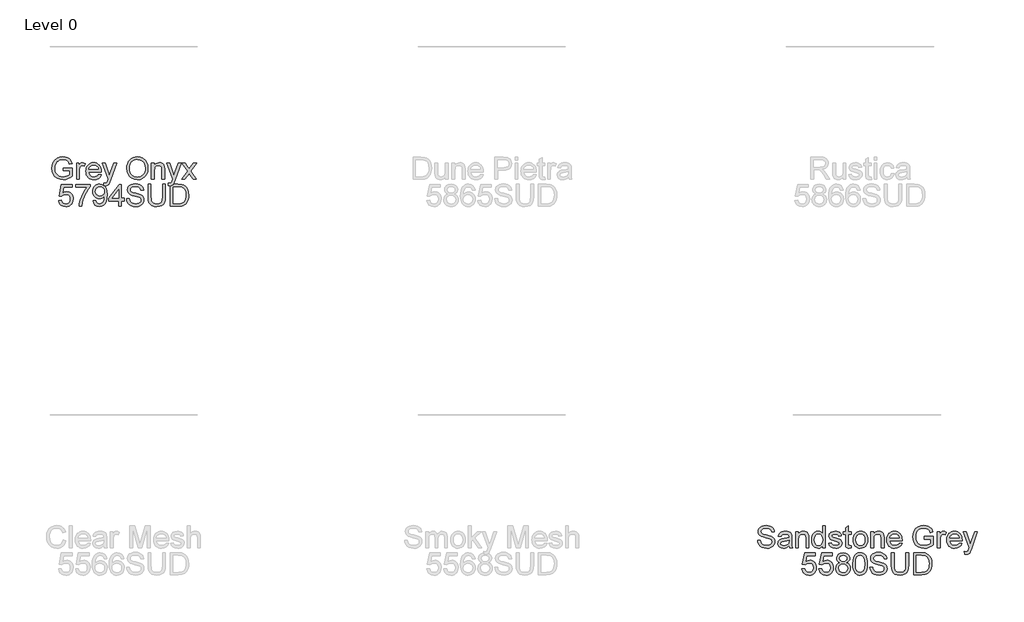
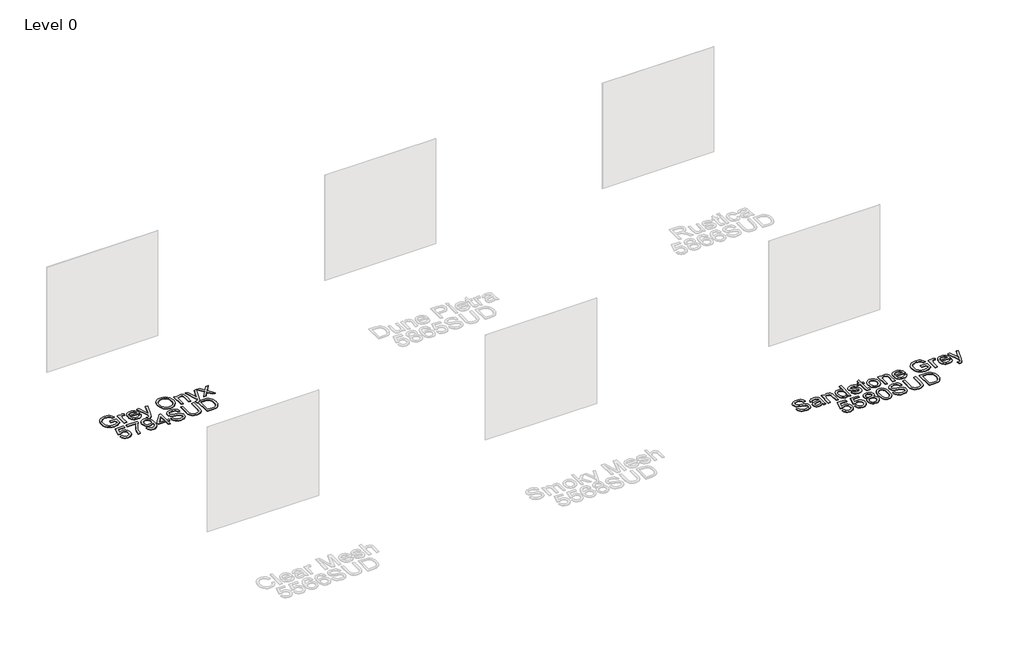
# One storey, part 20 of 29: 2 proxies.
"""IFC4 building model written with IfcOpenShell, lengths in millimetres."""

from ifc_helpers import new_model, si_unit, origin, origin_with_axes, place, context, project, spatial, polyline, outline, extrude, element, save

model = new_model("IFC4")

# Units and contexts
model_context = context("Model", 3, world=origin())
ifc_project = project(units=[si_unit("LENGTHUNIT", "METRE", prefix="MILLI")], contexts=[model_context])

# Site, building, storey
site = spatial("IfcSite", under=ifc_project)
building = spatial("IfcBuilding", under=site)
storey = spatial("IfcBuildingStorey", under=building, Name="Level 0", Elevation=0.0)

# Proxies
placement = place(None, origin())
element("IfcBuildingElementProxy", 1, Name="300mm Arial", ObjectType="300mm Arial", at=placement, inside=storey, context=model_context, shape_type="SweptSolid", body=[
    extrude(outline(polyline([(-270.004836, -6885.1382555), (-270.004836, -6847.4671392), (-147.573708, -6847.4671392), (-147.573708, -6960.1126061), (-177.3261643, -6980.8059684), (-208.0167198, -6995.6500069), (-239.5717979, -7004.5895394), (-271.9178223, -7007.5693835), (-314.1782665, -7002.8329028), (-352.3736147, -6988.6234608), (-384.1034368, -6965.437698), (-406.9673028, -6933.7722553), (-420.7904687, -6895.7884393), (-425.3981907, -6853.6475567), (-420.8088628, -6811.2031715), (-407.0408792, -6771.7202364), (-384.6644568, -6738.6016598), (-354.2498129, -6715.2503502), (-317.2040959, -6701.399593), (-274.9344547, -6696.782674), (-243.9036084, -6699.4590155), (-215.9997591, -6707.4880401), (-192.5012966, -6720.2903335), (-174.686611, -6737.2864817), (-161.5072385, -6759.295022), (-151.9147155, -6787.134492), (-186.6427759, -6796.9201531), (-194.3958889, -6777.0637224), (-203.822865, -6762.0817281), (-216.2940647, -6750.7877509), (-233.1798482, -6741.9953712), (-253.3121904, -6736.3391855), (-275.5230659, -6734.4537903), (-301.5231259, -6736.4863383), (-323.7523955, -6742.5839824), (-342.1281011, -6751.9833674), (-356.5674694, -6763.9211381), (-375.9548506, -6792.9470275), (-384.7840185, -6821.3843058), (-387.7270744, -6852.1024524), (-384.1862102, -6888.1272967), (-373.5636176, -6917.7693885), (-356.1811933, -6940.8171955), (-332.3608341, -6957.0591856), (-304.484576, -6966.6884968), (-274.9344547, -6969.8982672), (-248.8424242, -6967.4794431), (-223.3941872, -6960.2229707), (-201.2936763, -6950.2257775), (-185.2448243, -6939.5847908), (-185.2448243, -6885.1382555), (-270.004836, -6885.1382555)])), origin_with_axes(), (0.0, 0.0, 1.0), 10.0),
    extrude(outline(polyline([(-91.0670335, -7002.860494), (-91.0670335, -6781.5426857), (-58.1048067, -6781.5426857), (-58.1048067, -6814.2841833), (-45.9279127, -6795.3014723), (-34.7075119, -6784.1178596), (-23.4503228, -6778.654812), (-11.1630642, -6776.8337961), (7.5989176, -6779.7400639), (26.6552049, -6788.4588672), (14.0736407, -6822.2304343), (0.8298889, -6816.4362929), (-12.4138629, -6814.5049125), (-23.6618549, -6816.3627165), (-33.7142305, -6821.9361288), (-41.8352255, -6830.8020848), (-47.2890761, -6842.5375205), (-51.8692069, -6863.5803706), (-53.3959172, -6886.5362071), (-53.3959172, -7002.860494), (-91.0670335, -7002.860494)])), origin_with_axes(), (0.0, 0.0, 1.0), 10.0),
    extrude(outline(polyline([(205.151549, -6936.9360404), (242.0869013, -6941.64493), (228.7787701, -6969.4752029), (207.542782, -6990.2789297), (178.8571834, -7003.2467701), (143.200221, -7007.5693835), (119.8259187, -7005.7046817), (98.9991993, -7000.1105761), (80.7200627, -6990.7870668), (64.9885088, -6977.7341537), (52.3379667, -6961.3151204), (43.3018652, -6941.8932503), (37.8802043, -6919.4685435), (36.072984, -6894.0409998), (37.8985984, -6867.7512327), (43.3754416, -6844.5792656), (52.5035136, -6824.5250983), (65.2828144, -6807.5887309), (80.9729815, -6794.133447), (98.8336524, -6784.5225298), (118.864827, -6778.7559796), (141.0665054, -6776.8337961), (162.5531132, -6778.751381), (181.9841804, -6784.5041357), (199.3597068, -6794.0920602), (214.6796927, -6807.5151545), (227.1853813, -6824.4147337), (236.1180159, -6844.4321128), (241.4775968, -6867.5672917), (243.2641237, -6893.8202706), (243.0433945, -6903.9738137), (73.7441003, -6903.9738137), (80.2648087, -6932.1719686), (95.4123498, -6952.902119), (117.2737374, -6965.6492302), (143.935985, -6969.8982672), (163.9855537, -6967.9300985), (180.8713373, -6962.0255925), (194.5933357, -6951.8168672), (205.151549, -6936.9360404)]), holes=[polyline([(73.7441003, -6866.3026974), (205.5930074, -6866.3026974), (200.4978418, -6846.4002814), (190.5098456, -6832.1632482), (168.5472905, -6818.9194964), (140.9193526, -6814.5049125), (115.5262979, -6818.0273826), (94.5294331, -6828.5947929), (79.9337149, -6845.0667092), (73.7441003, -6866.3026974)])]), origin_with_axes(), (0.0, 0.0, 1.0), 10.0),
    extrude(outline(polyline([(280.93524, -7087.6205057), (276.2263505, -7051.3473409), (295.3562142, -7054.6582789), (313.2352792, -7050.5012124), (324.1981626, -7038.9129295), (334.4988585, -7011.1746271), (337.4419145, -7002.0511536), (257.3907923, -6781.5426857), (297.1220478, -6781.5426857), (339.57563, -6904.4152721), (354.3644862, -6953.5643066), (369.1533425, -6910.1542312), (412.7841471, -6781.5426857), (452.221097, -6781.5426857), (375.1866072, -7008.1579947), (355.1738266, -7057.3070293), (344.9283131, -7072.9971964), (333.3216361, -7083.8681093), (319.838761, -7090.2140737), (303.9646529, -7092.3293952), (280.93524, -7087.6205057)])), origin_with_axes(), (0.0, 0.0, 1.0), 10.0),
    extrude(outline(polyline([(591.7219495, -6856.1491543), (594.2327442, -6820.8002931), (601.765128, -6789.5073309), (614.3191011, -6762.2702677), (631.8946634, -6739.0891034), (653.4387528, -6720.5800406), (677.8983069, -6707.3592814), (705.2733259, -6699.4268258), (735.5638097, -6696.782674), (775.09273, -6701.7490809), (810.5381603, -6716.6483017), (839.9687199, -6740.4318727), (861.4530284, -6772.0513302), (874.5864156, -6809.9799639), (878.9642114, -6852.6910636), (874.3564894, -6895.9723803), (860.5333234, -6934.4344429), (838.2580686, -6966.1090827), (808.2940801, -6989.028131), (773.1521525, -7002.9340704), (735.3430805, -7007.5693835), (695.2071548, -7002.4466267), (659.5593894, -6987.0783564), (630.2024062, -6962.853327), (608.9388269, -6931.1602931), (596.0261689, -6894.6939903), (591.7219495, -6856.1491543)]), holes=[polyline([(629.3930658, -6856.5170363), (631.2761618, -6881.4916252), (636.9254497, -6903.661114), (646.3409295, -6923.0255025), (659.5226012, -6939.5847908), (675.5461614, -6952.8469367), (693.4873065, -6962.3198981), (713.3460364, -6968.0036749), (735.1223513, -6969.8982672), (757.2711466, -6967.9852808), (777.3644014, -6962.2463217), (795.4021154, -6952.6813898), (811.3842889, -6939.2904852), (824.4693916, -6922.381709), (833.8158935, -6902.2631624), (839.4237947, -6878.9348454), (841.2930951, -6852.396758), (838.0925217, -6819.0482551), (828.4908016, -6790.2247008), (812.7362552, -6766.6526619), (791.0772027, -6749.0587055), (764.948384, -6738.1050191), (735.7845388, -6734.4537903), (714.7646813, -6736.2127261), (695.2623371, -6741.4895335), (677.277506, -6750.2842124), (660.8101882, -6762.5967629), (647.0651972, -6779.0203948), (637.2473464, -6800.1483176), (631.356636, -6825.9805314), (629.3930658, -6856.5170363)])]), origin_with_axes(), (0.0, 0.0, 1.0), 10.0),
    extrude(outline(polyline([(926.0531068, -7002.860494), (926.0531068, -6781.5426857), (963.7242231, -6781.5426857), (963.7242231, -6812.4447733), (976.811625, -6796.8649708), (992.5293833, -6785.7365404), (1010.8774978, -6779.0594822), (1031.8559686, -6776.8337961), (1050.4248123, -6778.6272209), (1067.4301575, -6784.0074951), (1081.6120084, -6792.303234), (1091.7103692, -6802.8430532), (1103.0043464, -6830.5445674), (1104.9909092, -6866.964885), (1104.9909092, -7002.860494), (1067.3197929, -7002.860494), (1067.3197929, -6872.0416565), (1062.9787854, -6838.7115477), (1056.9731118, -6828.7879309), (1047.6381062, -6821.0900002), (1035.6727443, -6816.1511844), (1021.7760019, -6814.5049125), (999.7122792, -6818.2021265), (980.9043122, -6829.2937687), (973.3880232, -6838.3482643), (968.0192454, -6850.7228949), (963.7242231, -6885.4325611), (963.7242231, -7002.860494), (926.0531068, -7002.860494)])), origin_with_axes(), (0.0, 0.0, 1.0), 10.0),
    extrude(outline(polyline([(1156.7886941, -7087.6205057), (1152.0798046, -7051.3473409), (1171.2096683, -7054.6582789), (1189.0887333, -7050.5012124), (1200.0516168, -7038.9129295), (1210.3523126, -7011.1746271), (1213.2953686, -7002.0511536), (1133.2442464, -6781.5426857), (1172.9755019, -6781.5426857), (1215.4290842, -6904.4152721), (1230.2179404, -6953.5643066), (1245.0067966, -6910.1542312), (1288.6376012, -6781.5426857), (1328.0745511, -6781.5426857), (1251.0400613, -7008.1579947), (1231.0272808, -7057.3070293), (1220.7817672, -7072.9971964), (1209.1750902, -7083.8681093), (1195.6922151, -7090.2140737), (1179.818107, -7092.3293952), (1156.7886941, -7087.6205057)])), origin_with_axes(), (0.0, 0.0, 1.0), 10.0),
    extrude(outline(polyline([(1335.7264966, -7002.860494), (1416.2190771, -6891.6129786), (1340.4353861, -6781.5426857), (1385.7584479, -6781.5426857), (1422.3259182, -6834.517693), (1439.3956428, -6859.5336687), (1454.184499, -6839.0794297), (1495.8287409, -6781.5426857), (1541.1518027, -6781.5426857), (1461.5421389, -6891.6129786), (1538.2087467, -7002.860494), (1492.8856849, -7002.860494), (1446.7532827, -6935.9795473), (1438.2919968, -6923.765865), (1381.0495584, -7002.860494), (1335.7264966, -7002.860494)])), origin_with_axes(), (0.0, 0.0, 1.0), 10.0),
    extrude(outline(polyline([(-333.5748447, -7288.7338254), (-295.9037284, -7284.0249358), (-288.9875469, -7306.6404815), (-276.9210175, -7322.8364863), (-259.7593224, -7332.5761621), (-237.557644, -7335.8227207), (-210.5551055, -7331.3069693), (-190.3215958, -7317.7597148), (-177.6848493, -7296.7444558), (-173.4726004, -7269.8246908), (-177.4181348, -7244.4776213), (-189.254738, -7225.0902402), (-209.0743805, -7212.7845875), (-236.9690328, -7208.6827032), (-255.2435709, -7210.3197781), (-270.0416242, -7215.2310027), (-291.1948389, -7232.2271509), (-328.8659552, -7227.5182614), (-295.9037284, -7072.1249066), (-149.9281527, -7072.1249066), (-149.9281527, -7109.7960229), (-265.4430992, -7109.7960229), (-281.5563306, -7192.790201), (-254.6457627, -7176.4562404), (-226.4476077, -7171.0115869), (-208.1017925, -7172.6992456), (-191.2504978, -7177.7622215), (-175.8937238, -7186.2005148), (-162.0314704, -7198.0141254), (-150.5558514, -7212.4810848), (-142.3589807, -7228.8794248), (-137.4408583, -7247.2091452), (-135.8014841, -7267.470246), (-141.7059901, -7305.1413624), (-149.0866227, -7321.9351754), (-159.4195082, -7337.3678251), (-175.0728871, -7353.1729553), (-193.3382282, -7364.4623341), (-214.2155314, -7371.2359613), (-237.7047968, -7373.4938371), (-274.7045285, -7367.6904986), (-290.3831992, -7360.4363255), (-304.1810733, -7350.2804832), (-315.6612908, -7337.7288093), (-324.3869919, -7323.2871418), (-333.5748447, -7288.7338254)])), origin_with_axes(), (0.0, 0.0, 1.0), 10.0),
    extrude(outline(polyline([(-102.8392574, -7109.7960229), (-102.8392574, -7072.1249066), (94.9341033, -7072.1249066), (94.9341033, -7102.5855358), (66.7451454, -7138.2608923), (38.832099, -7183.6299393), (14.2115965, -7234.5540045), (-4.0997299, -7286.8944154), (-13.0760505, -7326.0554538), (-18.0792457, -7368.7849475), (-55.750362, -7368.7849475), (-51.6760689, -7329.9550029), (-40.7775648, -7283.8042066), (-23.3491552, -7234.8850983), (0.3148541, -7187.7502177), (27.9427919, -7145.1402856), (57.2629869, -7109.7960229), (-102.8392574, -7109.7960229)])), origin_with_axes(), (0.0, 0.0, 1.0), 10.0),
    extrude(outline(polyline([(132.6052196, -7293.4427149), (170.2763359, -7288.7338254), (176.7142708, -7310.1169663), (187.1989076, -7324.6758963), (201.4727291, -7333.0360146), (219.2782176, -7335.8227207), (235.2534933, -7334.029296), (249.775635, -7328.6490218), (261.8421645, -7320.2705094), (270.4506031, -7309.4823699), (282.77465, -7276.7408723), (288.2193035, -7233.0364913), (287.9985743, -7225.6788514), (274.9479605, -7241.6081418), (257.8690389, -7254.2264942), (237.9942141, -7262.4486568), (216.5558909, -7265.1893777), (198.6607311, -7263.5155146), (182.2049096, -7258.4939254), (167.1884264, -7250.12461), (153.6112815, -7238.4075684), (142.3609902, -7223.9544045), (134.3250679, -7207.3767221), (129.5035145, -7188.6745212), (127.89633, -7167.8478018), (129.5816894, -7146.326705), (134.6377676, -7127.0129003), (143.0645645, -7109.9063875), (154.8620803, -7095.0071667), (169.1979818, -7082.9360387), (185.239936, -7074.3138045), (202.987943, -7069.1404639), (222.4420028, -7067.4160171), (250.5389902, -7071.3523544), (276.1159859, -7083.1613665), (297.5083239, -7102.254442), (313.0513382, -7128.0429699), (322.5151025, -7163.6907352), (325.6696906, -7212.3615232), (322.5242996, -7263.96617), (313.0881264, -7303.8537754), (297.4439445, -7333.8269609), (275.6745275, -7355.6883485), (248.7179743, -7369.0424649), (217.512384, -7373.4938371), (185.3043154, -7368.2423216), (159.607758, -7352.4877751), (141.6367225, -7327.2234791), (132.6052196, -7293.4427149)]), holes=[polyline([(287.9985743, -7166.964885), (283.9334783, -7141.4338745), (271.7381901, -7121.788976), (252.8106615, -7109.262594), (228.5488439, -7105.0871334), (203.3857154, -7109.5844908), (183.2257821, -7123.0765629), (169.9820303, -7143.7239399), (165.5674463, -7169.6872117), (169.742907, -7192.964945), (182.2692889, -7211.4418182), (201.9325815, -7223.4991506), (227.5187743, -7227.5182614), (251.5874538, -7223.4991506), (270.9656379, -7211.4418182), (283.7403402, -7192.2843633), (287.9985743, -7166.964885)])]), origin_with_axes(), (0.0, 0.0, 1.0), 10.0),
    extrude(outline(polyline([(481.0630454, -7368.7849475), (481.0630454, -7298.1516044), (344.5052488, -7298.1516044), (344.5052488, -7260.4804881), (490.4808245, -7072.1249066), (518.7341617, -7072.1249066), (518.7341617, -7260.4804881), (556.405278, -7260.4804881), (556.405278, -7298.1516044), (518.7341617, -7298.1516044), (518.7341617, -7368.7849475), (481.0630454, -7368.7849475)]), holes=[polyline([(481.0630454, -7260.4804881), (481.0630454, -7144.0826249), (390.8583802, -7260.4804881), (481.0630454, -7260.4804881)])]), origin_with_axes(), (0.0, 0.0, 1.0), 10.0),
    extrude(outline(polyline([(589.3675048, -7265.1893777), (627.0386211, -7265.1893777), (631.3612345, -7286.0942721), (639.1787269, -7302.8972822), (651.3740151, -7316.2330045), (668.8300157, -7326.7360355), (690.1671714, -7333.5510494), (714.0059247, -7335.8227207), (734.9935926, -7334.1028724), (753.3692982, -7328.9433274), (768.259322, -7320.7763471), (778.7899441, -7310.0341929), (785.0531351, -7297.700949), (787.1408654, -7284.7606998), (785.5773669, -7272.1515444), (780.8868715, -7261.2530403), (771.3587278, -7251.9548229), (755.2822846, -7244.1465276), (700.4310791, -7229.7623415), (664.4246288, -7220.2433949), (641.3860189, -7211.1843008), (622.6332342, -7198.510766), (609.3434971, -7183.1516928), (601.4248372, -7165.4381747), (598.7852838, -7145.7013056), (602.0502366, -7123.637583), (611.8450947, -7103.0637824), (627.9123408, -7085.6261758), (649.9944576, -7072.9710352), (676.5003553, -7065.2731044), (705.8389444, -7062.7071275), (737.6239488, -7065.3926661), (765.4358277, -7073.4492818), (788.2812996, -7086.7114277), (805.1670831, -7105.013557), (815.8540551, -7127.2152354), (820.1030921, -7152.1760288), (782.4319758, -7152.1760288), (775.5157943, -7129.6984389), (761.0948201, -7113.4748429), (738.5620479, -7103.6523936), (707.3104724, -7100.3782438), (675.3231329, -7103.6156054), (653.3789719, -7113.3276901), (640.6870431, -7127.6199056), (636.4564002, -7144.5976597), (639.4546384, -7159.0738162), (648.4493532, -7170.7172813), (669.7129325, -7181.1283418), (709.9592228, -7191.7601314), (751.4931, -7201.8584922), (776.6194403, -7210.669266), (798.0945518, -7224.3360821), (813.076546, -7241.2034716), (821.8781228, -7261.0874934), (824.8119817, -7283.8042066), (821.4366644, -7307.0267576), (811.3107125, -7328.869751), (794.8479932, -7347.668521), (772.4623738, -7361.7584014), (745.5426088, -7370.5599781), (715.4774527, -7373.4938371), (678.5696915, -7370.3300519), (648.1918358, -7360.8386964), (623.9943976, -7344.9829824), (605.627889, -7322.7261217), (593.837271, -7295.6132187), (589.3675048, -7265.1893777)])), origin_with_axes(), (0.0, 0.0, 1.0), 10.0),
    extrude(outline(polyline([(1079.0920167, -7067.4160171), (1116.7631331, -7067.4160171), (1116.7631331, -7241.277048), (1114.2063532, -7281.9923878), (1106.5360136, -7313.3451308), (1092.2070099, -7337.533372), (1069.6742377, -7356.7552063), (1038.8825147, -7369.3091794), (999.7766586, -7373.4938371), (961.5261281, -7369.8518053), (930.9459373, -7358.92571), (908.026889, -7341.0926303), (892.7597862, -7316.7296452), (884.1789387, -7284.052527), (881.3186561, -7241.277048), (881.3186561, -7067.4160171), (918.9897724, -7067.4160171), (918.9897724, -7239.9526728), (920.8475765, -7273.8070134), (926.4209887, -7297.3790523), (936.5193495, -7313.7038158), (951.9519992, -7325.8163305), (972.0751444, -7333.3211232), (996.2449914, -7335.8227207), (1034.5599012, -7330.8747079), (1048.9027005, -7324.6896919), (1060.0357294, -7316.0306694), (1068.3728551, -7303.8537754), (1074.3279449, -7287.1151446), (1079.0920167, -7239.9526728), (1079.0920167, -7067.4160171)])), origin_with_axes(), (0.0, 0.0, 1.0), 10.0),
    extrude(outline(polyline([(1182.6875866, -7368.7849475), (1182.6875866, -7067.4160171), (1286.6510384, -7067.4160171), (1340.4353861, -7071.7570246), (1364.4580804, -7080.12634), (1384.7283783, -7093.3149095), (1405.5688934, -7116.270746), (1420.4129319, -7144.8183889), (1429.2972821, -7178.406015), (1432.2587321, -7216.4818015), (1430.2537752, -7248.8278259), (1424.2389046, -7277.2926953), (1415.0786429, -7301.5269217), (1403.6375129, -7321.1810173), (1390.4673375, -7336.6964405), (1376.1199397, -7348.5146496), (1359.6480233, -7357.2794381), (1340.1042923, -7363.6345996), (1291.6542336, -7368.7849475), (1182.6875866, -7368.7849475)]), holes=[polyline([(1220.3587029, -7331.1138312), (1287.0189204, -7331.1138312), (1314.591676, -7329.7526678), (1335.5057674, -7325.6691777), (1351.287905, -7319.1024841), (1363.464799, -7310.2917103), (1376.552201, -7293.9853408), (1386.3838473, -7272.8781114), (1392.5366737, -7246.8780514), (1394.5876158, -7215.8931903), (1390.568505, -7174.8375597), (1378.5111726, -7144.5240833), (1360.696487, -7123.7019623), (1339.4053165, -7111.1203981), (1317.737067, -7106.5954496), (1285.9888508, -7105.0871334), (1220.3587029, -7105.0871334), (1220.3587029, -7331.1138312)])]), origin_with_axes(), (0.0, 0.0, 1.0), 10.0),
])
element("IfcBuildingElementProxy", 2, Name="300mm Arial", ObjectType="300mm Arial", at=placement, inside=storey, context=model_context, shape_type="SweptSolid", body=[
    extrude(outline(polyline([(9157.6997714, -11909.2649241), (9195.3708877, -11909.2649241), (9199.6935011, -11930.1698185), (9207.5109935, -11946.9728286), (9219.7062817, -11960.308551), (9237.1622823, -11970.8115819), (9258.4994381, -11977.6265959), (9282.3381914, -11979.8982672), (9303.3258592, -11978.1784189), (9321.7015648, -11973.0188739), (9336.5915886, -11964.8518936), (9347.1222107, -11954.1097394), (9353.3854017, -11941.7764955), (9355.473132, -11928.8362463), (9353.9096335, -11916.2270909), (9349.2191381, -11905.3285868), (9339.6909944, -11896.0303694), (9323.6145512, -11888.222074), (9268.7633457, -11873.837888), (9232.7568955, -11864.3189414), (9209.7182855, -11855.2598472), (9190.9655008, -11842.5863125), (9177.6757637, -11827.2272392), (9169.7571038, -11809.5137211), (9167.1175505, -11789.7768521), (9170.3825032, -11767.7131294), (9180.1773613, -11747.1393289), (9196.2446074, -11729.7017223), (9218.3267242, -11717.0465817), (9244.8326219, -11709.3486509), (9274.1712111, -11706.782674), (9305.9562154, -11709.4682126), (9333.7680943, -11717.5248283), (9356.6135662, -11730.7869742), (9373.4993498, -11749.0891034), (9384.1863217, -11771.2907818), (9388.4353588, -11796.2515752), (9350.7642425, -11796.2515752), (9343.8480609, -11773.7739853), (9329.4270867, -11757.5503893), (9306.8943145, -11747.7279401), (9275.642739, -11744.4537903), (9243.6553996, -11747.6911519), (9221.7112385, -11757.4032365), (9209.0193097, -11771.695452), (9204.7886668, -11788.6732061), (9207.786905, -11803.1493626), (9216.7816198, -11814.7928278), (9238.0451991, -11825.2038882), (9278.2914894, -11835.8356779), (9319.8253667, -11845.9340387), (9344.9517069, -11854.7448125), (9366.4268184, -11868.4116286), (9381.4088127, -11885.2790181), (9390.2103894, -11905.1630399), (9393.1442483, -11927.8797531), (9389.768931, -11951.102304), (9379.6429791, -11972.9452975), (9363.1802598, -11991.7440675), (9340.7946404, -12005.8339479), (9313.8748754, -12014.6355246), (9283.8097193, -12017.5693835), (9246.9019582, -12014.4055984), (9216.5241024, -12004.9142429), (9192.3266642, -11989.0585289), (9173.9601556, -11966.8016682), (9162.1695376, -11939.6887651), (9157.6997714, -11909.2649241)])), origin_with_axes(), (0.0, 0.0, 1.0), 10.0),
    extrude(outline(polyline([(9586.2087194, -11984.6071568), (9568.2100928, -12000.0398064), (9549.6780372, -12010.1381672), (9530.1894886, -12015.7115794), (9509.3213824, -12017.5693835), (9477.8398806, -12013.0996173), (9454.6173297, -11999.6903186), (9440.297523, -11979.3280501), (9435.5242541, -11953.9993748), (9437.3268759, -11938.3827841), (9442.7347412, -11924.2009331), (9451.0764655, -11912.0608273), (9461.680664, -11902.5694718), (9488.0578031, -11890.2086368), (9520.6521478, -11884.5432541), (9559.1693927, -11878.5835657), (9585.9879902, -11871.5938078), (9586.2087194, -11863.2060983), (9583.6151513, -11846.3938912), (9575.8344471, -11835.3942195), (9558.4336287, -11827.2272392), (9534.1902052, -11824.5049125), (9511.7494035, -11826.3167313), (9496.0776305, -11831.7521878), (9485.3906586, -11841.8045633), (9477.90426, -11857.4671392), (9440.2331437, -11852.7582497), (9446.7722461, -11832.156858), (9456.5303161, -11815.9700502), (9470.4178614, -11803.590821), (9489.34539, -11794.4121652), (9512.4943646, -11788.7283884), (9539.0462476, -11786.8337961), (9564.5128787, -11788.5076592), (9584.7004032, -11793.5292485), (9599.9215207, -11801.0800264), (9610.488931, -11810.3414556), (9617.4970831, -11821.7917827), (9622.0404257, -11835.9092543), (9623.8798357, -11868.8714811), (9623.8798357, -11915.7396473), (9625.792822, -11981.1858542), (9633.2976147, -12012.860494), (9595.6264984, -12012.860494), (9586.2087194, -11984.6071568)]), holes=[polyline([(9586.2087194, -11909.2649241), (9525.4346138, -11920.8164188), (9493.02421, -11926.9232599), (9478.3457184, -11936.8560738), (9473.1953704, -11951.3506244), (9476.0004707, -11962.5526311), (9484.4157713, -11971.7312869), (9498.2573314, -11977.8565221), (9517.3412099, -11979.8982672), (9537.5747196, -11977.64499), (9555.4537846, -11970.8851583), (9569.9483352, -11960.9247533), (9580.0283018, -11949.069756), (9584.4980681, -11936.8560738), (9585.9879902, -11919.933502), (9586.2087194, -11909.2649241)])]), origin_with_axes(), (0.0, 0.0, 1.0), 10.0),
    extrude(outline(polyline([(9675.6776206, -12012.860494), (9675.6776206, -11791.5426857), (9713.3487369, -11791.5426857), (9713.3487369, -11822.4447733), (9726.4361389, -11806.8649708), (9742.1538971, -11795.7365404), (9760.5020116, -11789.0594822), (9781.4804824, -11786.8337961), (9800.0493261, -11788.6272209), (9817.0546713, -11794.0074951), (9831.2365223, -11802.303234), (9841.334883, -11812.8430532), (9852.6288603, -11840.5445674), (9854.615423, -11876.964885), (9854.615423, -12012.860494), (9816.9443067, -12012.860494), (9816.9443067, -11882.0416565), (9812.6032992, -11848.7115477), (9806.5976256, -11838.7879309), (9797.26262, -11831.0900002), (9785.2972581, -11826.1511844), (9771.4005157, -11824.5049125), (9749.3367931, -11828.2021265), (9730.5288261, -11839.2937687), (9723.0125371, -11848.3482643), (9717.6437592, -11860.7228949), (9713.3487369, -11895.4325611), (9713.3487369, -12012.860494), (9675.6776206, -12012.860494)])), origin_with_axes(), (0.0, 0.0, 1.0), 10.0),
    extrude(outline(polyline([(10042.9710046, -12012.860494), (10042.9710046, -11977.3230932), (10031.70002, -11994.9308452), (10018.0469994, -12007.507811), (10002.0119429, -12015.0539904), (9983.5948506, -12017.5693835), (9959.2410625, -12013.9273518), (9936.9474136, -12003.0012565), (9918.0750672, -11985.5544529), (9903.9851868, -11962.350296), (9895.2112012, -11934.3268851), (9892.2865394, -11902.422319), (9894.981275, -11870.9132261), (9903.0654818, -11842.4575538), (9916.5299628, -11818.6739828), (9935.365521, -11801.181194), (9958.1466135, -11790.4206456), (9983.4476978, -11786.8337961), (10001.8785857, -11789.3997731), (10018.1757581, -11797.0977038), (10031.989727, -11808.8975188), (10042.9710046, -11823.7691485), (10042.9710046, -11711.4915635), (10080.6421209, -11711.4915635), (10080.6421209, -12012.860494), (10042.9710046, -12012.860494)]), holes=[polyline([(9929.9576557, -11902.2751662), (9934.2066927, -11936.350236), (9946.9538038, -11960.5844625), (9965.4766623, -11975.069816), (9987.0529413, -11979.8982672), (10008.6200233, -11975.2905452), (10026.6738322, -11961.4673793), (10038.8967115, -11938.1712519), (10042.9710046, -11905.1446458), (10038.8231351, -11869.037028), (10026.3795266, -11844.0026582), (10007.8658652, -11829.3793489), (9985.5078369, -11824.5049125), (9963.7108287, -11829.1862108), (9945.8501579, -11843.230106), (9933.9307812, -11867.3539678), (9929.9576557, -11902.2751662)])]), origin_with_axes(), (0.0, 0.0, 1.0), 10.0),
    extrude(outline(polyline([(10123.0221267, -11946.9360404), (10160.693243, -11942.2271509), (10166.6345373, -11958.3403823), (10178.1308496, -11970.1861825), (10195.2557565, -11977.470246), (10218.0828343, -11979.8982672), (10240.6340006, -11977.6725811), (10256.4897146, -11970.9955229), (10265.8707055, -11961.3202265), (10268.9977024, -11950.0998256), (10265.8523114, -11940.4981055), (10256.4161382, -11933.1772538), (10217.6413759, -11922.4350996), (10160.9139722, -11904.0042116), (10146.5573774, -11894.7427824), (10136.155514, -11882.4831149), (10129.8371407, -11868.0069584), (10127.7310163, -11852.0960621), (10129.4232734, -11837.5003439), (10134.500045, -11824.0266659), (10142.5014784, -11812.2084568), (10152.9677211, -11802.5791455), (10176.916839, -11791.4323211), (10209.3272428, -11786.8337961), (10233.8465778, -11788.6824032), (10255.1653394, -11794.2282242), (10272.3086404, -11802.9286334), (10284.3015934, -11814.2410048), (10292.2478445, -11829.0022698), (10297.2510396, -11848.0493601), (10259.5799233, -11852.7582497), (10254.8250486, -11840.9032524), (10245.4164665, -11831.972917), (10231.2622068, -11826.3719136), (10212.2702988, -11824.5049125), (10190.6388374, -11826.2891401), (10176.2178632, -11831.6418232), (10168.1060652, -11839.3673451), (10165.4021326, -11848.2700893), (10169.8902929, -11859.2329728), (10183.9433851, -11867.5471059), (10216.3905771, -11875.5669334), (10271.683241, -11893.2988455), (10286.2881562, -11901.7785255), (10297.3614042, -11913.3852025), (10304.3419651, -11928.1556646), (10306.6688187, -11946.1267001), (10303.9372949, -11964.7047408), (10295.7427235, -11982.1791356), (10282.3978041, -11997.1795239), (10264.2152365, -12008.3355454), (10242.2526814, -12015.260924), (10217.5677995, -12017.5693835), (10179.5839835, -12013.1180114), (10151.8640752, -11999.763895), (10133.3596108, -11977.654187), (10123.0221267, -11946.9360404)])), origin_with_axes(), (0.0, 0.0, 1.0), 10.0),
    extrude(outline(polyline([(10429.0999467, -11981.4433716), (10433.8088363, -12013.96414), (10405.6290754, -12017.5693835), (10387.5476754, -12016.005885), (10374.0648002, -12011.3153896), (10364.5366566, -12004.0865084), (10358.3194508, -11994.9078526), (10354.8981483, -11979.1441091), (10353.7577141, -11952.1599648), (10353.7577141, -11829.213802), (10325.5043769, -11829.213802), (10325.5043769, -11791.5426857), (10353.7577141, -11791.5426857), (10353.7577141, -11737.758338), (10391.4288304, -11715.6118419), (10391.4288304, -11791.5426857), (10429.0999467, -11791.5426857), (10429.0999467, -11829.213802), (10391.4288304, -11829.213802), (10391.4288304, -11951.0563188), (10393.4153932, -11970.4804881), (10399.8533281, -11977.3598814), (10412.6924097, -11979.8982672), (10429.0999467, -11981.4433716)])), origin_with_axes(), (0.0, 0.0, 1.0), 10.0),
    extrude(outline(polyline([(10457.3532839, -11902.2015898), (10459.3904305, -11873.5389839), (10465.5018701, -11848.8403064), (10475.6876029, -11828.1055575), (10489.9476287, -11811.334737), (10504.3042236, -11800.6155754), (10520.1507405, -11792.9590314), (10537.4871795, -11788.3651049), (10556.3135406, -11786.8337961), (10577.0965741, -11788.698498), (10595.8884463, -11794.2926036), (10612.6891571, -11803.6161129), (10627.4987067, -11816.669026), (10639.5859295, -11833.0098843), (10648.2196601, -11852.1972296), (10653.3998984, -11874.2310619), (10655.1266446, -11899.1113811), (10652.073224, -11937.1687735), (10642.9129623, -11966.1394806), (10627.912574, -11987.8353213), (10607.3387734, -12004.0681143), (10582.9022118, -12014.1940662), (10556.3135406, -12017.5693835), (10535.2270045, -12015.7115794), (10516.2603884, -12010.1381672), (10499.4136923, -12000.8491468), (10484.6869162, -11987.8445183), (10472.7284521, -11971.3450108), (10464.186692, -11951.5713536), (10459.061636, -11928.5235466), (10457.3532839, -11902.2015898)]), holes=[polyline([(10495.0244003, -11902.1280134), (10499.3838019, -11936.2214773), (10512.4620068, -11960.5108861), (10532.1436936, -11975.0514219), (10556.3135406, -11979.8982672), (10580.3730231, -11975.0238308), (10600.0179217, -11960.4005215), (10613.0961266, -11935.789216), (10617.4555282, -11900.950791), (10613.0685355, -11867.8506085), (10599.9075571, -11843.8922936), (10580.2350674, -11829.3517577), (10556.3135406, -11824.5049125), (10532.1436936, -11829.3333636), (10512.4620068, -11843.8187172), (10499.3838019, -11868.0529436), (10495.0244003, -11902.1280134)])]), origin_with_axes(), (0.0, 0.0, 1.0), 10.0),
    extrude(outline(polyline([(10697.5066504, -12012.860494), (10697.5066504, -11791.5426857), (10735.1777667, -11791.5426857), (10735.1777667, -11822.4447733), (10748.2651687, -11806.8649708), (10763.9829269, -11795.7365404), (10782.3310414, -11789.0594822), (10803.3095122, -11786.8337961), (10821.8783559, -11788.6272209), (10838.8837011, -11794.0074951), (10853.0655521, -11802.303234), (10863.1639128, -11812.8430532), (10874.4578901, -11840.5445674), (10876.4444529, -11876.964885), (10876.4444529, -12012.860494), (10838.7733365, -12012.860494), (10838.7733365, -11882.0416565), (10834.432329, -11848.7115477), (10828.4266554, -11838.7879309), (10819.0916498, -11831.0900002), (10807.1262879, -11826.1511844), (10793.2295455, -11824.5049125), (10771.1658229, -11828.2021265), (10752.3578559, -11839.2937687), (10744.8415669, -11848.3482643), (10739.472789, -11860.7228949), (10735.1777667, -11895.4325611), (10735.1777667, -12012.860494), (10697.5066504, -12012.860494)])), origin_with_axes(), (0.0, 0.0, 1.0), 10.0),
    extrude(outline(polyline([(11083.1941341, -11946.9360404), (11120.1294865, -11951.64493), (11106.8213553, -11979.4752029), (11085.5853671, -12000.2789297), (11056.8997685, -12013.2467701), (11021.2428062, -12017.5693835), (10997.8685039, -12015.7046817), (10977.0417844, -12010.1105761), (10958.7626478, -12000.7870668), (10943.031094, -11987.7341537), (10930.3805519, -11971.3151204), (10921.3444504, -11951.8932503), (10915.9227895, -11929.4685435), (10914.1155692, -11904.0409998), (10915.9411836, -11877.7512327), (10921.4180268, -11854.5792656), (10930.5460988, -11834.5250983), (10943.3253996, -11817.5887309), (10959.0155667, -11804.133447), (10976.8762375, -11794.5225298), (10996.9074122, -11788.7559796), (11019.1090906, -11786.8337961), (11040.5956984, -11788.751381), (11060.0267655, -11794.5041357), (11077.402292, -11804.0920602), (11092.7222778, -11817.5151545), (11105.2279664, -11834.4147337), (11114.1606011, -11854.4321128), (11119.5201819, -11877.5672917), (11121.3067088, -11903.8202706), (11121.0859796, -11913.9738137), (10951.7866855, -11913.9738137), (10958.3073938, -11942.1719686), (10973.454935, -11962.902119), (10995.3163225, -11975.6492302), (11021.9785701, -11979.8982672), (11042.0281389, -11977.9300985), (11058.9139225, -11972.0255925), (11072.6359209, -11961.8168672), (11083.1941341, -11946.9360404)]), holes=[polyline([(10951.7866855, -11876.3026974), (11083.6355925, -11876.3026974), (11078.5404269, -11856.4002814), (11068.5524307, -11842.1632482), (11046.5898756, -11828.9194964), (11018.9619378, -11824.5049125), (10993.5688831, -11828.0273826), (10972.5720182, -11838.5947929), (10957.9763, -11855.0667092), (10951.7866855, -11876.3026974)])]), origin_with_axes(), (0.0, 0.0, 1.0), 10.0),
    extrude(outline(polyline([(11422.6756393, -11895.1382555), (11422.6756393, -11857.4671392), (11545.1067673, -11857.4671392), (11545.1067673, -11970.1126061), (11515.3543109, -11990.8059684), (11484.6637555, -12005.6500069), (11453.1086773, -12014.5895394), (11420.7626529, -12017.5693835), (11378.5022087, -12012.8329028), (11340.3068606, -11998.6234608), (11308.5770385, -11975.437698), (11285.7131725, -11943.7722553), (11271.8900065, -11905.7884393), (11267.2822845, -11863.6475567), (11271.8716124, -11821.2031715), (11285.6395961, -11781.7202364), (11308.0160184, -11748.6016598), (11338.4306624, -11725.2503502), (11375.4763793, -11711.399593), (11417.7460206, -11706.782674), (11448.7768668, -11709.4590155), (11476.6807162, -11717.4880401), (11500.1791786, -11730.2903335), (11517.9938642, -11747.2864817), (11531.1732367, -11769.295022), (11540.7657597, -11797.134492), (11506.0376994, -11806.9201531), (11498.2845863, -11787.0637224), (11488.8576102, -11772.0817281), (11476.3864106, -11760.7877509), (11459.500627, -11751.9953712), (11439.3682848, -11746.3391855), (11417.1574094, -11744.4537903), (11391.1573494, -11746.4863383), (11368.9280798, -11752.5839824), (11350.5523741, -11761.9833674), (11336.1130058, -11773.9211381), (11316.7256247, -11802.9470275), (11307.8964568, -11831.3843058), (11304.9534008, -11862.1024524), (11308.494265, -11898.1272967), (11319.1168576, -11927.7693885), (11336.4992819, -11950.8171955), (11360.3196411, -11967.0591856), (11388.1958993, -11976.6884968), (11417.7460206, -11979.8982672), (11443.8380511, -11977.4794431), (11469.2862881, -11970.2229707), (11491.3867989, -11960.2257775), (11507.435651, -11949.5847908), (11507.435651, -11895.1382555), (11422.6756393, -11895.1382555)])), origin_with_axes(), (0.0, 0.0, 1.0), 10.0),
    extrude(outline(polyline([(11601.6134417, -12012.860494), (11601.6134417, -11791.5426857), (11634.5756685, -11791.5426857), (11634.5756685, -11824.2841833), (11646.7525626, -11805.3014723), (11657.9729634, -11794.1178596), (11669.2301525, -11788.654812), (11681.5174111, -11786.8337961), (11700.2793928, -11789.7400639), (11719.3356802, -11798.4588672), (11706.754116, -11832.2304343), (11693.5103641, -11826.4362929), (11680.2666123, -11824.5049125), (11669.0186203, -11826.3627165), (11658.9662448, -11831.9361288), (11650.8452497, -11840.8020848), (11645.3913992, -11852.5375205), (11640.8112683, -11873.5803706), (11639.284558, -11896.5362071), (11639.284558, -12012.860494), (11601.6134417, -12012.860494)])), origin_with_axes(), (0.0, 0.0, 1.0), 10.0),
    extrude(outline(polyline([(11897.8320243, -11946.9360404), (11934.7673766, -11951.64493), (11921.4592454, -11979.4752029), (11900.2232572, -12000.2789297), (11871.5376587, -12013.2467701), (11835.8806963, -12017.5693835), (11812.506394, -12015.7046817), (11791.6796746, -12010.1105761), (11773.4005379, -12000.7870668), (11757.6689841, -11987.7341537), (11745.018442, -11971.3151204), (11735.9823405, -11951.8932503), (11730.5606796, -11929.4685435), (11728.7534593, -11904.0409998), (11730.5790737, -11877.7512327), (11736.0559169, -11854.5792656), (11745.1839889, -11834.5250983), (11757.9632897, -11817.5887309), (11773.6534568, -11804.133447), (11791.5141277, -11794.5225298), (11811.5453023, -11788.7559796), (11833.7469807, -11786.8337961), (11855.2335885, -11788.751381), (11874.6646556, -11794.5041357), (11892.0401821, -11804.0920602), (11907.3601679, -11817.5151545), (11919.8658565, -11834.4147337), (11928.7984912, -11854.4321128), (11934.158072, -11877.5672917), (11935.944599, -11903.8202706), (11935.7238698, -11913.9738137), (11766.4245756, -11913.9738137), (11772.9452839, -11942.1719686), (11788.0928251, -11962.902119), (11809.9542127, -11975.6492302), (11836.6164603, -11979.8982672), (11856.666029, -11977.9300985), (11873.5518126, -11972.0255925), (11887.273811, -11961.8168672), (11897.8320243, -11946.9360404)]), holes=[polyline([(11766.4245756, -11876.3026974), (11898.2734827, -11876.3026974), (11893.178317, -11856.4002814), (11883.1903209, -11842.1632482), (11861.2277657, -11828.9194964), (11833.5998279, -11824.5049125), (11808.2067732, -11828.0273826), (11787.2099083, -11838.5947929), (11772.6141902, -11855.0667092), (11766.4245756, -11876.3026974)])]), origin_with_axes(), (0.0, 0.0, 1.0), 10.0),
    extrude(outline(polyline([(11973.6157153, -12097.6205057), (11968.9068257, -12061.3473409), (11988.0366895, -12064.6582789), (12005.9157544, -12060.5012124), (12016.8786379, -12048.9129295), (12027.1793338, -12021.1746271), (12030.1223897, -12012.0511536), (11950.0712676, -11791.5426857), (11989.8025231, -11791.5426857), (12032.2561053, -11914.4152721), (12047.0449615, -11963.5643066), (12061.8338177, -11920.1542312), (12105.4646223, -11791.5426857), (12144.9015722, -11791.5426857), (12067.8670824, -12018.1579947), (12047.8543019, -12067.3070293), (12037.6087883, -12082.9971964), (12026.0021114, -12093.8681093), (12012.5192363, -12100.2140737), (11996.6451282, -12102.3293952), (11973.6157153, -12097.6205057)])), origin_with_axes(), (0.0, 0.0, 1.0), 10.0),
    extrude(outline(polyline([(9760.4376323, -12298.7338254), (9798.1087486, -12294.0249358), (9805.0249301, -12316.6404815), (9817.0914595, -12332.8364863), (9834.2531546, -12342.5761621), (9856.454833, -12345.8227207), (9883.4573715, -12341.3069693), (9903.6908812, -12327.7597148), (9916.3276277, -12306.7444558), (9920.5398766, -12279.8246908), (9916.5943422, -12254.4776213), (9904.757739, -12235.0902402), (9884.9380965, -12222.7845875), (9857.0434442, -12218.6827032), (9838.7689061, -12220.3197781), (9823.9708528, -12225.2310027), (9802.8176381, -12242.2271509), (9765.1465218, -12237.5182614), (9798.1087486, -12082.1249066), (9944.0843243, -12082.1249066), (9944.0843243, -12119.7960229), (9828.5693778, -12119.7960229), (9812.4561464, -12202.790201), (9839.3667143, -12186.4562404), (9867.5648693, -12181.0115869), (9885.9106845, -12182.6992456), (9902.7619792, -12187.7622215), (9918.1187532, -12196.2005148), (9931.9810066, -12208.0141254), (9943.4566256, -12222.4810848), (9951.6534963, -12238.8794248), (9956.5716187, -12257.2091452), (9958.2109929, -12277.470246), (9952.3064869, -12315.1413624), (9944.9258543, -12331.9351754), (9934.5929688, -12347.3678251), (9918.9395899, -12363.1729553), (9900.6742488, -12374.4623341), (9879.7969456, -12381.2359613), (9856.3076802, -12383.4938371), (9819.3079486, -12377.6904986), (9803.6292778, -12370.4363255), (9789.8314037, -12360.2804832), (9778.3511862, -12347.7288093), (9769.6254851, -12333.2871418), (9760.4376323, -12298.7338254)])), origin_with_axes(), (0.0, 0.0, 1.0), 10.0),
    extrude(outline(polyline([(9991.1732197, -12298.7338254), (10028.844336, -12294.0249358), (10035.7605175, -12316.6404815), (10047.8270469, -12332.8364863), (10064.988742, -12342.5761621), (10087.1904204, -12345.8227207), (10114.1929588, -12341.3069693), (10134.4264686, -12327.7597148), (10147.0632151, -12306.7444558), (10151.275464, -12279.8246908), (10147.3299296, -12254.4776213), (10135.4933264, -12235.0902402), (10115.6736839, -12222.7845875), (10087.7790316, -12218.6827032), (10069.5044935, -12220.3197781), (10054.7064402, -12225.2310027), (10033.5532255, -12242.2271509), (9995.8821092, -12237.5182614), (10028.844336, -12082.1249066), (10174.8199116, -12082.1249066), (10174.8199116, -12119.7960229), (10059.3049652, -12119.7960229), (10043.1917338, -12202.790201), (10070.1023017, -12186.4562404), (10098.3004567, -12181.0115869), (10116.6462719, -12182.6992456), (10133.4975665, -12187.7622215), (10148.8543406, -12196.2005148), (10162.716594, -12208.0141254), (10174.192213, -12222.4810848), (10182.3890837, -12238.8794248), (10187.3072061, -12257.2091452), (10188.9465803, -12277.470246), (10183.0420742, -12315.1413624), (10175.6614417, -12331.9351754), (10165.3285562, -12347.3678251), (10149.6751773, -12363.1729553), (10131.4098362, -12374.4623341), (10110.532533, -12381.2359613), (10087.0432676, -12383.4938371), (10050.0435359, -12377.6904986), (10034.3648652, -12370.4363255), (10020.5669911, -12360.2804832), (10009.0867736, -12347.7288093), (10000.3610725, -12333.2871418), (9991.1732197, -12298.7338254)])), origin_with_axes(), (0.0, 0.0, 1.0), 10.0),
    extrude(outline(polyline([(10276.7968007, -12212.7965913), (10256.6276703, -12202.8637774), (10242.4734106, -12189.3992964), (10234.1132922, -12172.6790597), (10231.3265861, -12152.9789789), (10232.8440993, -12137.6153071), (10237.396639, -12123.5300252), (10244.9842052, -12110.7231332), (10255.6067978, -12099.1946312), (10268.7539806, -12089.6664875), (10283.9153173, -12082.8606706), (10320.2804525, -12077.4160171), (10356.866317, -12082.9894293), (10372.1932006, -12089.9561946), (10385.5427185, -12099.709666), (10396.3584491, -12111.4634957), (10404.083971, -12124.4313361), (10408.7192842, -12138.613187), (10410.2643886, -12154.0090485), (10407.5144706, -12173.0745329), (10399.2647169, -12189.509661), (10385.4231568, -12202.8913686), (10365.8978199, -12212.7965913), (10389.0835827, -12224.7435591), (10405.9601692, -12242.3375155), (10416.251668, -12264.732332), (10419.6821676, -12291.0818799), (10417.9807134, -12309.8714528), (10412.8763507, -12327.0975272), (10404.3690796, -12342.7601031), (10392.4589, -12356.8591806), (10377.7712113, -12368.5118428), (10360.931413, -12376.8351729), (10341.939505, -12381.829171), (10320.7954873, -12383.4938371), (10299.6514697, -12381.8222732), (10280.6595617, -12376.8075818), (10263.8197633, -12368.4497627), (10249.1320747, -12356.748816), (10237.2218951, -12342.5508703), (10228.7146239, -12326.7020541), (10223.6102613, -12309.2023674), (10221.908807, -12290.0518103), (10225.4772624, -12262.6813898), (10236.1826284, -12240.1670117), (10253.4730822, -12223.2812282), (10276.7968007, -12212.7965913)]), holes=[polyline([(10259.5799233, -12288.7274351), (10265.8707055, -12317.0911369), (10274.5803117, -12329.2588339), (10288.1275662, -12338.317928), (10304.3511622, -12343.9465226), (10321.0897929, -12345.8227207), (10346.731168, -12341.8771864), (10365.9713963, -12330.0405832), (10378.0011376, -12312.1155329), (10382.0110513, -12289.9046575), (10377.8723789, -12267.316703), (10365.4563616, -12248.9961796), (10345.7746748, -12236.8560738), (10319.8389941, -12232.8093718), (10294.556304, -12236.8008915), (10275.5092137, -12248.7754504), (10263.5622459, -12266.7464859), (10259.5799233, -12288.7274351)]), polyline([(10268.9977024, -12154.0826249), (10272.3362315, -12170.52695), (10282.3518188, -12183.6603373), (10298.7501588, -12192.268776), (10321.2369457, -12195.1382555), (10343.1995008, -12192.2871701), (10359.3495204, -12183.7339137), (10369.2823343, -12171.0419848), (10372.5932723, -12155.774882), (10369.1719697, -12139.9283651), (10358.908062, -12126.822569), (10342.5373133, -12118.0209923), (10320.7954873, -12115.0871334), (10298.9157057, -12117.9566129), (10282.572548, -12126.5650516), (10272.3914138, -12139.1834041), (10268.9977024, -12154.0826249)])]), origin_with_axes(), (0.0, 0.0, 1.0), 10.0),
    extrude(outline(polyline([(10452.6443944, -12230.5285035), (10455.4127064, -12182.2899768), (10463.7176425, -12143.8187172), (10477.4764291, -12114.5261133), (10496.6062928, -12093.8235541), (10521.2451895, -12081.5179013), (10551.5310747, -12077.4160171), (10574.7444286, -12079.8440382), (10595.5297613, -12087.1281017), (10612.9121856, -12098.983099), (10625.9168141, -12115.1239216), (10635.7392634, -12135.4126136), (10643.5751499, -12159.7112194), (10648.7071037, -12190.5673217), (10650.417755, -12230.5285035), (10647.6770342, -12278.4911186), (10639.4548716, -12316.8704077), (10625.7788584, -12346.1906027), (10606.6765858, -12366.9759355), (10581.9825069, -12379.3643617), (10551.5310747, -12383.4938371), (10530.7825302, -12381.7004123), (10512.3884304, -12376.3201381), (10496.3487754, -12367.3530145), (10482.6635652, -12354.7990414), (10469.530178, -12332.1053209), (10460.1491871, -12303.828991), (10454.5205926, -12269.9700519), (10452.6443944, -12230.5285035)]), holes=[polyline([(10490.3155107, -12230.4549271), (10494.7300947, -12289.7115194), (10500.2483246, -12309.9795181), (10507.9738465, -12324.0073184), (10527.6923214, -12340.3688702), (10551.5310747, -12345.8227207), (10575.369828, -12340.3504761), (10595.0883029, -12323.933742), (10602.8138248, -12309.8829491), (10608.3320548, -12289.6195489), (10612.7466387, -12230.4549271), (10608.4792076, -12172.5319069), (10603.1449186, -12152.3305869), (10595.6769141, -12137.9693935), (10575.9952274, -12120.8076984), (10551.0896163, -12115.0871334), (10527.5083804, -12120.1271167), (10508.5624577, -12135.2470667), (10500.5794184, -12150.8820515), (10494.8772475, -12171.9616898), (10490.3155107, -12230.4549271)])]), origin_with_axes(), (0.0, 0.0, 1.0), 10.0),
    extrude(outline(polyline([(10683.3799818, -12275.1893777), (10721.0510981, -12275.1893777), (10725.3737115, -12296.0942721), (10733.1912039, -12312.8972822), (10745.3864921, -12326.2330045), (10762.8424927, -12336.7360355), (10784.1796485, -12343.5510494), (10808.0184017, -12345.8227207), (10829.0060696, -12344.1028724), (10847.3817752, -12338.9433274), (10862.271799, -12330.7763471), (10872.8024211, -12320.0341929), (10879.0656121, -12307.700949), (10881.1533424, -12294.7606998), (10879.5898439, -12282.1515444), (10874.8993485, -12271.2530403), (10865.3712048, -12261.9548229), (10849.2947616, -12254.1465276), (10794.4435561, -12239.7623415), (10758.4371058, -12230.2433949), (10735.3984959, -12221.1843008), (10716.6457112, -12208.510766), (10703.3559741, -12193.1516928), (10695.4373142, -12175.4381747), (10692.7977609, -12155.7013056), (10696.0627136, -12133.637583), (10705.8575717, -12113.0637824), (10721.9248178, -12095.6261758), (10744.0069346, -12082.9710352), (10770.5128323, -12075.2731044), (10799.8514215, -12072.7071275), (10831.6364258, -12075.3926661), (10859.4483047, -12083.4492818), (10882.2937766, -12096.7114277), (10899.1795602, -12115.013557), (10909.8665321, -12137.2152354), (10914.1155692, -12162.1760288), (10876.4444529, -12162.1760288), (10869.5282713, -12139.6984389), (10855.1072971, -12123.4748429), (10832.5745249, -12113.6523936), (10801.3229494, -12110.3782438), (10769.33561, -12113.6156054), (10747.3914489, -12123.3276901), (10734.6995201, -12137.6199056), (10730.4688772, -12154.5976597), (10733.4671154, -12169.0738162), (10742.4618302, -12180.7172813), (10763.7254095, -12191.1283418), (10803.9716998, -12201.7601314), (10845.5055771, -12211.8584922), (10870.6319173, -12220.669266), (10892.1070288, -12234.3360821), (10907.089023, -12251.2034716), (10915.8905998, -12271.0874934), (10918.8244587, -12293.8042066), (10915.4491414, -12317.0267576), (10905.3231895, -12338.869751), (10888.8604702, -12357.668521), (10866.4748508, -12371.7584014), (10839.5550858, -12380.5599781), (10809.4899297, -12383.4938371), (10772.5821686, -12380.3300519), (10742.2043128, -12370.8386964), (10718.0068746, -12354.9829824), (10699.640366, -12332.7261217), (10687.849748, -12305.6132187), (10683.3799818, -12275.1893777)])), origin_with_axes(), (0.0, 0.0, 1.0), 10.0),
    extrude(outline(polyline([(11173.1044938, -12077.4160171), (11210.7756101, -12077.4160171), (11210.7756101, -12251.277048), (11208.2188302, -12291.9923878), (11200.5484906, -12323.3451308), (11186.2194869, -12347.533372), (11163.6867147, -12366.7552063), (11132.8949917, -12379.3091794), (11093.7891356, -12383.4938371), (11055.5386052, -12379.8518053), (11024.9584143, -12368.92571), (11002.039366, -12351.0926303), (10986.7722632, -12326.7296452), (10978.1914157, -12294.052527), (10975.3311332, -12251.277048), (10975.3311332, -12077.4160171), (11013.0022495, -12077.4160171), (11013.0022495, -12249.9526728), (11014.8600535, -12283.8070134), (11020.4334658, -12307.3790523), (11030.5318265, -12323.7038158), (11045.9644762, -12335.8163305), (11066.0876214, -12343.3211232), (11090.2574684, -12345.8227207), (11128.5723782, -12340.8747079), (11142.9151775, -12334.6896919), (11154.0482064, -12326.0306694), (11162.3853321, -12313.8537754), (11168.3404219, -12297.1151446), (11173.1044938, -12249.9526728), (11173.1044938, -12077.4160171)])), origin_with_axes(), (0.0, 0.0, 1.0), 10.0),
    extrude(outline(polyline([(11276.7000636, -12378.7849475), (11276.7000636, -12077.4160171), (11380.6635154, -12077.4160171), (11434.4478631, -12081.7570246), (11458.4705574, -12090.12634), (11478.7408554, -12103.3149095), (11499.5813704, -12126.270746), (11514.4254089, -12154.8183889), (11523.3097591, -12188.406015), (11526.2712091, -12226.4818015), (11524.2662523, -12258.8278259), (11518.2513816, -12287.2926953), (11509.09112, -12311.5269217), (11497.6499899, -12331.1810173), (11484.4798145, -12346.6964405), (11470.1324167, -12358.5146496), (11453.6605003, -12367.2794381), (11434.1167693, -12373.6345996), (11385.6667106, -12378.7849475), (11276.7000636, -12378.7849475)]), holes=[polyline([(11314.3711799, -12341.1138312), (11381.0313974, -12341.1138312), (11408.604153, -12339.7526678), (11429.5182444, -12335.6691777), (11445.300382, -12329.1024841), (11457.477276, -12320.2917103), (11470.564678, -12303.9853408), (11480.3963243, -12282.8781114), (11486.5491507, -12256.8780514), (11488.6000928, -12225.8931903), (11484.580982, -12184.8375597), (11472.5236496, -12154.5240833), (11454.708964, -12133.7019623), (11433.4177935, -12121.1203981), (11411.749544, -12116.5954496), (11380.0013278, -12115.0871334), (11314.3711799, -12115.0871334), (11314.3711799, -12341.1138312)])]), origin_with_axes(), (0.0, 0.0, 1.0), 10.0),
])

save(model, "model.ifc")
